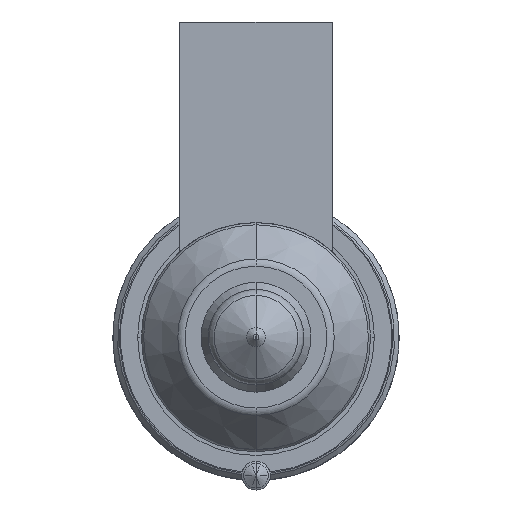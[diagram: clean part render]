
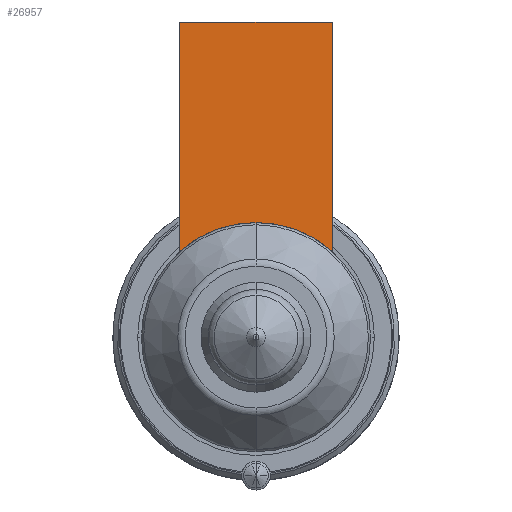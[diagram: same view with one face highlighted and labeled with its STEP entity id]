
A CAD part, front view. The second image highlights one B-rep face of the part: STEP entity #26957.
In plain terms, the highlighted planar face has unit normal (0, -1, 0).
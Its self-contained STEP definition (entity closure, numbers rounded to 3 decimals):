
#26107=DIRECTION('',(0.,0.,-1.));
#26108=VECTOR('',#26107,24.056);
#26109=CARTESIAN_POINT('',(-8.,-56.,33.));
#26110=LINE('',#26109,#26108);
#26147=DIRECTION('',(1.,0.,0.));
#26148=VECTOR('',#26147,16.);
#26149=CARTESIAN_POINT('',(-8.,-56.,33.));
#26150=LINE('',#26149,#26148);
#26154=CARTESIAN_POINT('',(0.,-56.,0.));
#26155=DIRECTION('',(0.,-1.,0.));
#26156=DIRECTION('',(0.667,0.,0.745));
#26157=AXIS2_PLACEMENT_3D('',#26154,#26155,#26156);
#26162=CARTESIAN_POINT('',(0.,-56.,0.));
#26163=DIRECTION('',(0.,-1.,0.));
#26164=DIRECTION('',(0.,0.,1.));
#26165=AXIS2_PLACEMENT_3D('',#26162,#26163,#26164);
#26198=DIRECTION('',(0.,0.,-1.));
#26199=VECTOR('',#26198,24.056);
#26200=CARTESIAN_POINT('',(8.,-56.,33.));
#26201=LINE('',#26200,#26199);
#26801=CARTESIAN_POINT('',(-8.,-56.,33.));
#26802=VERTEX_POINT('',#26801);
#26807=CARTESIAN_POINT('',(8.,-56.,33.));
#26808=VERTEX_POINT('',#26807);
#26811=CARTESIAN_POINT('',(-8.,-56.,8.944));
#26812=VERTEX_POINT('',#26811);
#26815=CARTESIAN_POINT('',(8.,-56.,8.944));
#26816=VERTEX_POINT('',#26815);
#26876=CARTESIAN_POINT('',(0.,-56.,12.));
#26877=VERTEX_POINT('',#26876);
#26942=CARTESIAN_POINT('',(-8.,-56.,33.));
#26943=DIRECTION('',(0.,-1.,0.));
#26944=DIRECTION('',(0.,0.,-1.));
#26945=AXIS2_PLACEMENT_3D('',#26942,#26943,#26944);
#26946=PLANE('',#26945);
#26947=ORIENTED_EDGE('',*,*,#26890,.F.);
#26949=ORIENTED_EDGE('',*,*,#26948,.T.);
#26951=ORIENTED_EDGE('',*,*,#26950,.T.);
#26953=ORIENTED_EDGE('',*,*,#26952,.T.);
#26954=ORIENTED_EDGE('',*,*,#26922,.T.);
#26955=EDGE_LOOP('',(#26947,#26949,#26951,#26953,#26954));
#26956=FACE_OUTER_BOUND('',#26955,.F.);
#26957=ADVANCED_FACE('',(#26956),#26946,.T.);
#26158=CIRCLE('',#26157,12.);
#26166=CIRCLE('',#26165,12.);
#26890=EDGE_CURVE('',#26802,#26812,#26110,.T.);
#26922=EDGE_CURVE('',#26877,#26812,#26166,.T.);
#26948=EDGE_CURVE('',#26802,#26808,#26150,.T.);
#26950=EDGE_CURVE('',#26808,#26816,#26201,.T.);
#26952=EDGE_CURVE('',#26816,#26877,#26158,.T.);
